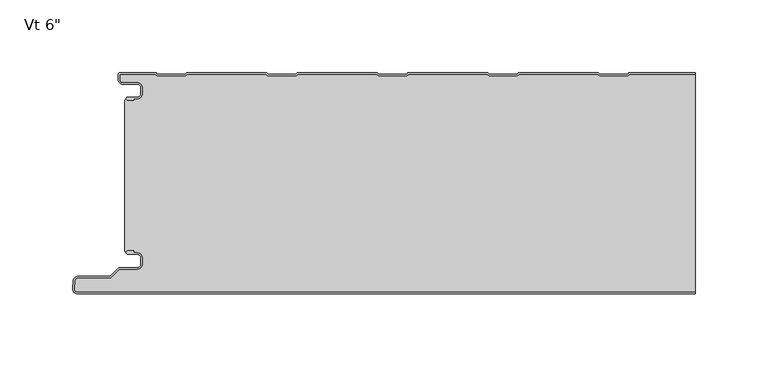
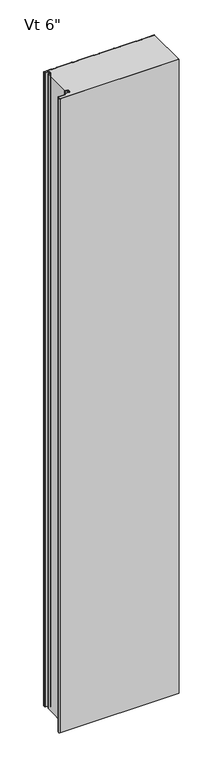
"""IFC4 building model written with IfcOpenShell, lengths in millimetres: plate geometry."""

from ifc_helpers import new_model, si_unit, point, frame, frame_2d, origin, origin_with_axes, place, context, project, spatial, polyline, circle_curve, trimmed, segment, composite_curve, outline, extrude, source, transform, mapped, element, save
from ifc_brep_helpers import plane_surface, cylinder_surface, revolved_surface, advanced_brep


def plate_67e8b0ed(model_context):
    return source(origin(), model_context, "Body", "SolidModel", [
        advanced_brep(
        [(-194.568691, -17.0015405, 2400.0), (-195.5686883, -18.0015437, 2400.0), (-194.568691, -19.0015351, 2400.0), (-190.5684874, -19.0015351, 2400.0), (-190.5684874, -18.0015405, 2400.0), (-187.8762776, -18.0015405, 2400.0), (-184.5762819, -14.7015449, 2400.0), (-184.5762819, -10.3015536, 2400.0), (-187.8762774, -7.0015581, 2400.0), (-198.2962563, -7.0015581, 2400.0), (-200.0662505, -5.2315639, 2400.0), (-200.0662505, -1.0000163, 2400.0), (-175.5659738, -1.0000163, 2400.0), (-174.1803312, -2.2002553, 2400.0), (-154.8051649, -2.2002553, 2400.0), (-153.419532, -1.0000246, 2400.0), (-99.3661166, -1.0000246, 2400.0), (-97.9804836, -2.2002553, 2400.0), (-78.6053173, -2.2002553, 2400.0), (-77.2196844, -1.0000246, 2400.0), (-23.166269, -1.0000246, 2400.0), (-21.780636, -2.2002553, 2400.0), (-2.4054697, -2.2002553, 2400.0), (-1.0198368, -1.0000246, 2400.0), (53.0335786, -1.0000246, 2400.0), (54.4192116, -2.2002553, 2400.0), (73.7943779, -2.2002553, 2400.0), (75.1800108, -1.0000246, 2400.0), (129.2334262, -1.0000246, 2400.0), (130.6190592, -2.2002553, 2400.0), (149.9942255, -2.2002553, 2400.0), (151.3798584, -1.0000246, 2400.0), (196.5999998, -1.0000246, 2400.0), (196.5999998, -2.46e-05, 2400.0), (151.5290096, -2.46e-05, 2400.0), (150.6123927, -0.3418131, 2400.0), (149.6213451, -1.2002553, 2400.0), (130.9919396, -1.2002553, 2400.0), (130.000892, -0.3418131, 2400.0), (129.0842751, -2.46e-05, 2400.0), (75.329162, -2.46e-05, 2400.0), (74.4125451, -0.3418131, 2400.0), (73.4214975, -1.2002553, 2400.0), (54.792092, -1.2002553, 2400.0), (53.8010444, -0.3418131, 2400.0), (52.8844275, -2.46e-05, 2400.0), (-0.8706856, -2.46e-05, 2400.0), (-1.7873025, -0.3418131, 2400.0), (-2.7783501, -1.2002553, 2400.0), (-21.4077556, -1.2002553, 2400.0), (-22.3988032, -0.3418131, 2400.0), (-23.3154201, -2.46e-05, 2400.0), (-77.0705332, -2.46e-05, 2400.0), (-77.9871501, -0.3418131, 2400.0), (-78.9781977, -1.2002553, 2400.0), (-97.6076032, -1.2002553, 2400.0), (-98.5986508, -0.3418131, 2400.0), (-99.5152677, -2.46e-05, 2400.0), (-153.2703808, -2.46e-05, 2400.0), (-154.1869977, -0.3418131, 2400.0), (-155.1780453, -1.2002553, 2400.0), (-173.8074508, -1.2002553, 2400.0), (-174.7984984, -0.3418131, 2400.0), (-175.7152067, -2.46e-05, 2400.0), (-199.6662543, -1.63e-05, 2400.0), (-201.0662505, -1.4000124, 2400.0), (-201.0662505, -5.2315639, 2400.0), (-198.2962563, -8.0015581, 2400.0), (-187.8762774, -8.0015581, 2400.0), (-185.5762819, -10.3015536, 2400.0), (-185.5762819, -14.7015449, 2400.0), (-187.8762776, -17.0015405, 2400.0), (-194.568691, -17.0015405, 0.0), (-187.8762776, -17.0015405, 0.0), (-185.5762819, -14.7015449, 0.0), (-185.5762819, -10.3015536, 0.0), (-187.8762774, -8.0015581, 0.0), (-198.2962563, -8.0015581, 0.0), (-201.0662505, -5.2315639, 0.0), (-201.0662505, -1.4000124, 0.0), (-199.6662543, -1.63e-05, 0.0), (-175.7151153, -1.63e-05, 0.0), (-174.7984984, -0.3418131, 0.0), (-173.8074508, -1.2002553, 0.0), (-155.1780453, -1.2002553, 0.0), (-154.1869977, -0.3418131, 0.0), (-153.2703808, -2.46e-05, 0.0), (-99.5152677, -2.46e-05, 0.0), (-98.5986508, -0.3418131, 0.0), (-97.6076032, -1.2002553, 0.0), (-78.9781977, -1.2002553, 0.0), (-77.9871501, -0.3418131, 0.0), (-77.0705332, -2.46e-05, 0.0), (-23.3154201, -2.46e-05, 0.0), (-22.3988032, -0.3418131, 0.0), (-21.4077556, -1.2002553, 0.0), (-2.7783501, -1.2002553, 0.0), (-1.7873025, -0.3418131, 0.0), (-0.8706856, -2.46e-05, 0.0), (52.8844275, -2.46e-05, 0.0), (53.8010444, -0.3418131, 0.0), (54.792092, -1.2002553, 0.0), (73.4214975, -1.2002553, 0.0), (74.4125451, -0.3418131, 0.0), (75.329162, -2.46e-05, 0.0), (129.0842751, -2.46e-05, 0.0), (130.000892, -0.3418131, 0.0), (130.9919396, -1.2002553, 0.0), (149.6213451, -1.2002553, 0.0), (150.6123927, -0.3418131, 0.0), (151.5290096, -2.46e-05, 0.0), (196.5999998, -2.46e-05, 0.0), (196.5999998, -1.0000246, 0.0), (151.3798584, -1.0000246, 0.0), (149.9942255, -2.2002553, 0.0), (130.6190592, -2.2002553, 0.0), (129.2334262, -1.0000246, 0.0), (75.1800108, -1.0000246, 0.0), (73.7943779, -2.2002553, 0.0), (54.4192116, -2.2002553, 0.0), (53.0335786, -1.0000246, 0.0), (-1.0198368, -1.0000246, 0.0), (-2.4054697, -2.2002553, 0.0), (-21.780636, -2.2002553, 0.0), (-23.166269, -1.0000246, 0.0), (-77.2196844, -1.0000246, 0.0), (-78.6053173, -2.2002553, 0.0), (-97.9804836, -2.2002553, 0.0), (-99.3661166, -1.0000246, 0.0), (-153.419532, -1.0000246, 0.0), (-154.8051649, -2.2002553, 0.0), (-174.1803312, -2.2002553, 0.0), (-175.5659738, -1.0000163, 0.0), (-200.0662505, -1.0000163, 0.0), (-200.0662505, -5.2315639, 0.0), (-198.2962563, -7.0015581, 0.0), (-187.8762774, -7.0015581, 0.0), (-184.5762819, -10.3015536, 0.0), (-184.5762819, -14.7015449, 0.0), (-187.8762776, -18.0015405, 0.0), (-190.5684874, -18.0015405, 0.0), (-190.5684874, -19.0015351, 0.0), (-194.568691, -19.0015351, 0.0), (-195.5686882, -18.0015438, 0.0)],
        [
            (0, 1, circle_curve(frame((-194.568691, -18.0015378, 2400.0), z_axis=(0.0, 0.0, 1.0), x_axis=(1.0, 0.0, 0.0)), 0.9999973)),
            (1, 2, circle_curve(frame((-194.568691, -18.0015379, 2400.0), z_axis=(0.0, 0.0, 1.0), x_axis=(1.0, 0.0, 0.0)), 0.9999972)),
            (2, 3),
            (3, 4),
            (4, 5),
            (5, 6, circle_curve(frame((-187.8762776, -14.7015449, 2400.0), z_axis=(0.0, 0.0, 1.0), x_axis=(1.0, 0.0, 0.0)), 3.2999957)),
            (6, 7),
            (7, 8, circle_curve(frame((-187.8762774, -10.3015536, 2400.0), z_axis=(0.0, 0.0, 1.0), x_axis=(1.0, 0.0, 0.0)), 3.2999955)),
            (8, 9),
            (9, 10, circle_curve(frame((-198.2962563, -5.2315639, 2400.0), z_axis=(0.0, 0.0, -1.0), x_axis=(1.0, 0.0, 0.0)), 1.7699942)),
            (10, 11),
            (11, 12),
            (12, 13),
            (13, 14),
            (14, 15),
            (15, 16),
            (16, 17),
            (17, 18),
            (18, 19),
            (19, 20),
            (20, 21),
            (21, 22),
            (22, 23),
            (23, 24),
            (24, 25),
            (25, 26),
            (26, 27),
            (27, 28),
            (28, 29),
            (29, 30),
            (30, 31),
            (31, 32),
            (32, 33),
            (33, 34),
            (34, 35, circle_curve(frame((151.5290096, -1.4000218, 2400.0), z_axis=(0.0, 0.0, 1.0), x_axis=(1.0, 0.0, 0.0)), 1.3999972)),
            (35, 36),
            (36, 37),
            (37, 38),
            (38, 39, circle_curve(frame((129.0842751, -1.4000218, 2400.0), z_axis=(0.0, 0.0, 1.0), x_axis=(1.0, 0.0, 0.0)), 1.3999972)),
            (39, 40),
            (40, 41, circle_curve(frame((75.329162, -1.4000218, 2400.0), z_axis=(0.0, 0.0, 1.0), x_axis=(1.0, 0.0, 0.0)), 1.3999972)),
            (41, 42),
            (42, 43),
            (43, 44),
            (44, 45, circle_curve(frame((52.8844275, -1.4000218, 2400.0), z_axis=(0.0, 0.0, 1.0), x_axis=(1.0, 0.0, 0.0)), 1.3999972)),
            (45, 46),
            (46, 47, circle_curve(frame((-0.8706856, -1.4000218, 2400.0), z_axis=(0.0, 0.0, 1.0), x_axis=(1.0, 0.0, 0.0)), 1.3999972)),
            (47, 48),
            (48, 49),
            (49, 50),
            (50, 51, circle_curve(frame((-23.3154201, -1.4000218, 2400.0), z_axis=(0.0, 0.0, 1.0), x_axis=(1.0, 0.0, 0.0)), 1.3999972)),
            (51, 52),
            (52, 53, circle_curve(frame((-77.0705332, -1.4000218, 2400.0), z_axis=(0.0, 0.0, 1.0), x_axis=(1.0, 0.0, 0.0)), 1.3999972)),
            (53, 54),
            (54, 55),
            (55, 56),
            (56, 57, circle_curve(frame((-99.5152677, -1.4000218, 2400.0), z_axis=(0.0, 0.0, 1.0), x_axis=(1.0, 0.0, 0.0)), 1.3999972)),
            (57, 58),
            (58, 59, circle_curve(frame((-153.2703808, -1.4000218, 2400.0), z_axis=(0.0, 0.0, 1.0), x_axis=(1.0, 0.0, 0.0)), 1.3999972)),
            (59, 60),
            (60, 61),
            (61, 62),
            (62, 63, circle_curve(frame((-175.7151153, -1.4000218, 2400.0), z_axis=(0.0, 0.0, 1.0), x_axis=(1.0, 0.0, 0.0)), 1.3999972)),
            (63, 64),
            (64, 65, circle_curve(frame((-199.6662543, -1.4000124, 2400.0), z_axis=(0.0, 0.0, 1.0), x_axis=(1.0, 0.0, 0.0)), 1.3999962)),
            (65, 66),
            (66, 67, circle_curve(frame((-198.2962563, -5.2315639, 2400.0), z_axis=(0.0, 0.0, 1.0), x_axis=(1.0, 0.0, 0.0)), 2.7699942)),
            (67, 68),
            (68, 69, circle_curve(frame((-187.8762774, -10.3015536, 2400.0), z_axis=(0.0, 0.0, -1.0), x_axis=(1.0, 0.0, 0.0)), 2.2999955)),
            (69, 70),
            (70, 71, circle_curve(frame((-187.8762776, -14.7015449, 2400.0), z_axis=(0.0, 0.0, -1.0), x_axis=(1.0, 0.0, 0.0)), 2.2999957)),
            (71, 0),
            (72, 73),
            (73, 74, circle_curve(frame((-187.8762776, -14.7015449, 0.0), z_axis=(0.0, 0.0, 1.0), x_axis=(1.0, 0.0, 0.0)), 2.2999957)),
            (74, 75),
            (75, 76, circle_curve(frame((-187.8762774, -10.3015536, 0.0), z_axis=(0.0, 0.0, 1.0), x_axis=(1.0, 0.0, 0.0)), 2.2999955)),
            (76, 77),
            (77, 78, circle_curve(frame((-198.2962563, -5.2315639, 0.0), z_axis=(0.0, 0.0, -1.0), x_axis=(1.0, 0.0, 0.0)), 2.7699942)),
            (78, 79),
            (79, 80, circle_curve(frame((-199.6662543, -1.4000124, 0.0), z_axis=(0.0, 0.0, -1.0), x_axis=(1.0, 0.0, 0.0)), 1.3999962)),
            (80, 81),
            (81, 82, circle_curve(frame((-175.7151153, -1.4000218, 0.0), z_axis=(0.0, 0.0, -1.0), x_axis=(1.0, 0.0, 0.0)), 1.3999972)),
            (82, 83),
            (83, 84),
            (84, 85),
            (85, 86, circle_curve(frame((-153.2703808, -1.4000218, 0.0), z_axis=(0.0, 0.0, -1.0), x_axis=(1.0, 0.0, 0.0)), 1.3999972)),
            (86, 87),
            (87, 88, circle_curve(frame((-99.5152677, -1.4000218, 0.0), z_axis=(0.0, 0.0, -1.0), x_axis=(1.0, 0.0, 0.0)), 1.3999972)),
            (88, 89),
            (89, 90),
            (90, 91),
            (91, 92, circle_curve(frame((-77.0705332, -1.4000218, 0.0), z_axis=(0.0, 0.0, -1.0), x_axis=(1.0, 0.0, 0.0)), 1.3999972)),
            (92, 93),
            (93, 94, circle_curve(frame((-23.3154201, -1.4000218, 0.0), z_axis=(0.0, 0.0, -1.0), x_axis=(1.0, 0.0, 0.0)), 1.3999972)),
            (94, 95),
            (95, 96),
            (96, 97),
            (97, 98, circle_curve(frame((-0.8706856, -1.4000218, 0.0), z_axis=(0.0, 0.0, -1.0), x_axis=(1.0, 0.0, 0.0)), 1.3999972)),
            (98, 99),
            (99, 100, circle_curve(frame((52.8844275, -1.4000218, 0.0), z_axis=(0.0, 0.0, -1.0), x_axis=(1.0, 0.0, 0.0)), 1.3999972)),
            (100, 101),
            (101, 102),
            (102, 103),
            (103, 104, circle_curve(frame((75.329162, -1.4000218, 0.0), z_axis=(0.0, 0.0, -1.0), x_axis=(1.0, 0.0, 0.0)), 1.3999972)),
            (104, 105),
            (105, 106, circle_curve(frame((129.0842751, -1.4000218, 0.0), z_axis=(0.0, 0.0, -1.0), x_axis=(1.0, 0.0, 0.0)), 1.3999972)),
            (106, 107),
            (107, 108),
            (108, 109),
            (109, 110, circle_curve(frame((151.5290096, -1.4000218, 0.0), z_axis=(0.0, 0.0, -1.0), x_axis=(1.0, 0.0, 0.0)), 1.3999972)),
            (110, 111),
            (111, 112),
            (112, 113),
            (113, 114),
            (114, 115),
            (115, 116),
            (116, 117),
            (117, 118),
            (118, 119),
            (119, 120),
            (120, 121),
            (121, 122),
            (122, 123),
            (123, 124),
            (124, 125),
            (125, 126),
            (126, 127),
            (127, 128),
            (128, 129),
            (129, 130),
            (130, 131),
            (131, 132),
            (132, 133),
            (133, 134),
            (134, 135, circle_curve(frame((-198.2962563, -5.2315639, 0.0), z_axis=(0.0, 0.0, 1.0), x_axis=(1.0, 0.0, 0.0)), 1.7699942)),
            (135, 136),
            (136, 137, circle_curve(frame((-187.8762774, -10.3015536, 0.0), z_axis=(0.0, 0.0, -1.0), x_axis=(1.0, 0.0, 0.0)), 3.2999955)),
            (137, 138),
            (138, 139, circle_curve(frame((-187.8762776, -14.7015449, 0.0), z_axis=(0.0, 0.0, -1.0), x_axis=(1.0, 0.0, 0.0)), 3.2999957)),
            (139, 140),
            (140, 141),
            (141, 142),
            (142, 143, circle_curve(frame((-194.568691, -18.0015379, 0.0), z_axis=(0.0, 0.0, -1.0), x_axis=(1.0, 0.0, 0.0)), 0.9999972)),
            (143, 72, circle_curve(frame((-194.568691, -18.0015378, 0.0), z_axis=(0.0, 0.0, -1.0), x_axis=(1.0, 0.0, 0.0)), 0.9999973)),
            (32, 112),
            (111, 33),
            (71, 73),
            (72, 0),
            (70, 74),
            (69, 75),
            (68, 76),
            (67, 77),
            (66, 78),
            (65, 79),
            (64, 80),
            (63, 81),
            (62, 82),
            (61, 83),
            (60, 84),
            (59, 85),
            (58, 86),
            (57, 87),
            (56, 88),
            (55, 89),
            (54, 90),
            (53, 91),
            (52, 92),
            (51, 93),
            (50, 94),
            (49, 95),
            (48, 96),
            (47, 97),
            (46, 98),
            (45, 99),
            (44, 100),
            (43, 101),
            (42, 102),
            (41, 103),
            (40, 104),
            (39, 105),
            (38, 106),
            (37, 107),
            (36, 108),
            (35, 109),
            (34, 110),
            (31, 113),
            (30, 114),
            (29, 115),
            (28, 116),
            (27, 117),
            (26, 118),
            (25, 119),
            (24, 120),
            (23, 121),
            (22, 122),
            (21, 123),
            (20, 124),
            (19, 125),
            (18, 126),
            (17, 127),
            (16, 128),
            (15, 129),
            (14, 130),
            (13, 131),
            (12, 132),
            (11, 133),
            (10, 134),
            (9, 135),
            (8, 136),
            (7, 137),
            (6, 138),
            (5, 139),
            (4, 140),
            (3, 141),
            (2, 142),
            (1, 143),
        ],
        [
            plane_surface(frame((336.8000002, -2.46e-05, 2400.0), z_axis=(0.0, 0.0, 1.0), x_axis=(0.0, 1.0, 0.0))),
            plane_surface(frame((336.8000002, -2.46e-05, 0.0), z_axis=(0.0, 0.0, -1.0), x_axis=(0.0, 1.0, 0.0))),
            plane_surface(frame((196.5999998, -162.4000246, 2400.0), z_axis=(1.0, 0.0, 0.0), x_axis=(0.0, 0.0, -1.0))),
            plane_surface(frame((-194.568691, -17.0015405, 2400.0), z_axis=(0.0, 1.0, 0.0), x_axis=(0.0, 0.0, -1.0))),
            revolved_surface(polyline([(-185.5762819, -14.7015449, 0.0), (-185.5762819, -14.7015449, 2400.0)]), (-187.8762776, -14.7015449, 2400.0), (0.0, 0.0, -1.0)),
            plane_surface(frame((-185.5762819, -14.7015449, 2400.0), z_axis=(-1.0, 0.0, 0.0), x_axis=(0.0, 0.0, -1.0))),
            revolved_surface(polyline([(-185.5762819, -10.3015536, 0.0), (-185.5762819, -10.3015536, 2400.0)]), (-187.8762774, -10.3015536, 2400.0), (0.0, 0.0, -1.0)),
            plane_surface(frame((-187.8762774, -8.0015581, 2400.0), z_axis=(0.0, -1.0, 0.0), x_axis=(0.0, 0.0, -1.0))),
            cylinder_surface(frame((-198.2962563, -5.2315639, 2400.0), z_axis=(0.0, 0.0, 1.0), x_axis=(1.0, 0.0, 0.0)), 2.7699942),
            plane_surface(frame((-201.0662505, -5.2315639, 2400.0), z_axis=(-1.0, 0.0, 0.0), x_axis=(0.0, 0.0, -1.0))),
            cylinder_surface(frame((-199.6662543, -1.4000124, 2400.0), z_axis=(0.0, 0.0, 1.0), x_axis=(1.0, 0.0, 0.0)), 1.3999962),
            plane_surface(frame((-199.6662543, -1.63e-05, 2400.0), z_axis=(0.0, 1.0, 0.0), x_axis=(0.0, 0.0, -1.0))),
            cylinder_surface(frame((-175.7151153, -1.4000218, 2400.0), z_axis=(0.0, 0.0, 1.0), x_axis=(1.0, 0.0, 0.0)), 1.3999972),
            plane_surface(frame((-174.7984984, -0.3418131, 2400.0), z_axis=(0.6547276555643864, 0.7558648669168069, 0.0), x_axis=(0.0, 0.0, -1.0))),
            plane_surface(frame((-164.4927481, -1.2002553, 2400.0), z_axis=(0.0, 1.0, 0.0), x_axis=(0.0, 0.0, -1.0))),
            plane_surface(frame((-155.1780453, -1.2002553, 2400.0), z_axis=(-0.6547276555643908, 0.7558648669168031, 0.0), x_axis=(0.0, 0.0, -1.0))),
            cylinder_surface(frame((-153.2703808, -1.4000218, 2400.0), z_axis=(0.0, 0.0, 1.0), x_axis=(1.0, 0.0, 0.0)), 1.3999972),
            plane_surface(frame((-153.2703808, -2.46e-05, 2400.0), z_axis=(0.0, 1.0, 0.0), x_axis=(0.0, 0.0, -1.0))),
            cylinder_surface(frame((-99.5152677, -1.4000218, 2400.0), z_axis=(0.0, 0.0, 1.0), x_axis=(1.0, 0.0, 0.0)), 1.3999972),
            plane_surface(frame((-98.5986508, -0.3418131, 2400.0), z_axis=(0.6547276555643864, 0.7558648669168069, 0.0), x_axis=(0.0, 0.0, -1.0))),
            plane_surface(frame((-88.2929005, -1.2002553, 2400.0), z_axis=(0.0, 1.0, 0.0), x_axis=(0.0, 0.0, -1.0))),
            plane_surface(frame((-78.9781977, -1.2002553, 2400.0), z_axis=(-0.6547276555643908, 0.7558648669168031, 0.0), x_axis=(0.0, 0.0, -1.0))),
            cylinder_surface(frame((-77.0705332, -1.4000218, 2400.0), z_axis=(0.0, 0.0, 1.0), x_axis=(1.0, 0.0, 0.0)), 1.3999972),
            plane_surface(frame((-77.0705332, -2.46e-05, 2400.0), z_axis=(0.0, 1.0, 0.0), x_axis=(0.0, 0.0, -1.0))),
            cylinder_surface(frame((-23.3154201, -1.4000218, 2400.0), z_axis=(0.0, 0.0, 1.0), x_axis=(1.0, 0.0, 0.0)), 1.3999972),
            plane_surface(frame((-22.3988032, -0.3418131, 2400.0), z_axis=(0.6547276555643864, 0.7558648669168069, 0.0), x_axis=(0.0, 0.0, -1.0))),
            plane_surface(frame((-12.0930529, -1.2002553, 2400.0), z_axis=(0.0, 1.0, 0.0), x_axis=(0.0, 0.0, -1.0))),
            plane_surface(frame((-2.7783501, -1.2002553, 2400.0), z_axis=(-0.6547276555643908, 0.7558648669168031, 0.0), x_axis=(0.0, 0.0, -1.0))),
            cylinder_surface(frame((-0.8706856, -1.4000218, 2400.0), z_axis=(0.0, 0.0, 1.0), x_axis=(1.0, 0.0, 0.0)), 1.3999972),
            plane_surface(frame((-0.8706856, -2.46e-05, 2400.0), z_axis=(0.0, 1.0, 0.0), x_axis=(0.0, 0.0, -1.0))),
            cylinder_surface(frame((52.8844275, -1.4000218, 2400.0), z_axis=(0.0, 0.0, 1.0), x_axis=(1.0, 0.0, 0.0)), 1.3999972),
            plane_surface(frame((53.8010444, -0.3418131, 2400.0), z_axis=(0.6547276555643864, 0.7558648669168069, 0.0), x_axis=(0.0, 0.0, -1.0))),
            plane_surface(frame((64.1067947, -1.2002553, 2400.0), z_axis=(0.0, 1.0, 0.0), x_axis=(0.0, 0.0, -1.0))),
            plane_surface(frame((73.4214975, -1.2002553, 2400.0), z_axis=(-0.6547276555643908, 0.7558648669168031, 0.0), x_axis=(0.0, 0.0, -1.0))),
            cylinder_surface(frame((75.329162, -1.4000218, 2400.0), z_axis=(0.0, 0.0, 1.0), x_axis=(1.0, 0.0, 0.0)), 1.3999972),
            plane_surface(frame((75.329162, -2.46e-05, 2400.0), z_axis=(0.0, 1.0, 0.0), x_axis=(0.0, 0.0, -1.0))),
            cylinder_surface(frame((129.0842751, -1.4000218, 2400.0), z_axis=(0.0, 0.0, 1.0), x_axis=(1.0, 0.0, 0.0)), 1.3999972),
            plane_surface(frame((130.000892, -0.3418131, 2400.0), z_axis=(0.6547276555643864, 0.7558648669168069, 0.0), x_axis=(0.0, 0.0, -1.0))),
            plane_surface(frame((140.3066423, -1.2002553, 2400.0), z_axis=(0.0, 1.0, 0.0), x_axis=(0.0, 0.0, -1.0))),
            plane_surface(frame((149.6213451, -1.2002553, 2400.0), z_axis=(-0.6547276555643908, 0.7558648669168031, 0.0), x_axis=(0.0, 0.0, -1.0))),
            cylinder_surface(frame((151.5290096, -1.4000218, 2400.0), z_axis=(0.0, 0.0, 1.0), x_axis=(1.0, 0.0, 0.0)), 1.3999972),
            plane_surface(frame((151.5290096, -2.46e-05, 2400.0), z_axis=(0.0, 1.0, 0.0), x_axis=(0.0, 0.0, -1.0))),
            plane_surface(frame((205.4332738, -1.0000246, 2400.0), z_axis=(0.0, -1.0, 0.0), x_axis=(0.0, 0.0, -1.0))),
            plane_surface(frame((151.3798584, -1.0000246, 2400.0), z_axis=(0.6547276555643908, -0.7558648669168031, 0.0), x_axis=(0.0, 0.0, -1.0))),
            plane_surface(frame((149.9942255, -2.2002553, 2400.0), z_axis=(0.0, -1.0, 0.0), x_axis=(0.0, 0.0, -1.0))),
            plane_surface(frame((130.6190592, -2.2002553, 2400.0), z_axis=(-0.6547276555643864, -0.7558648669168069, 0.0), x_axis=(0.0, 0.0, -1.0))),
            plane_surface(frame((129.2334262, -1.0000246, 2400.0), z_axis=(0.0, -1.0, 0.0), x_axis=(0.0, 0.0, -1.0))),
            plane_surface(frame((75.1800108, -1.0000246, 2400.0), z_axis=(0.6547276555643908, -0.7558648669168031, 0.0), x_axis=(0.0, 0.0, -1.0))),
            plane_surface(frame((73.7943779, -2.2002553, 2400.0), z_axis=(0.0, -1.0, 0.0), x_axis=(0.0, 0.0, -1.0))),
            plane_surface(frame((54.4192116, -2.2002553, 2400.0), z_axis=(-0.6547276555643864, -0.7558648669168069, 0.0), x_axis=(0.0, 0.0, -1.0))),
            plane_surface(frame((53.0335786, -1.0000246, 2400.0), z_axis=(0.0, -1.0, 0.0), x_axis=(0.0, 0.0, -1.0))),
            plane_surface(frame((-1.0198368, -1.0000246, 2400.0), z_axis=(0.6547276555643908, -0.7558648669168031, 0.0), x_axis=(0.0, 0.0, -1.0))),
            plane_surface(frame((-2.4054697, -2.2002553, 2400.0), z_axis=(0.0, -1.0, 0.0), x_axis=(0.0, 0.0, -1.0))),
            plane_surface(frame((-21.780636, -2.2002553, 2400.0), z_axis=(-0.6547276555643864, -0.7558648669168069, 0.0), x_axis=(0.0, 0.0, -1.0))),
            plane_surface(frame((-23.166269, -1.0000246, 2400.0), z_axis=(0.0, -1.0, 0.0), x_axis=(0.0, 0.0, -1.0))),
            plane_surface(frame((-77.2196844, -1.0000246, 2400.0), z_axis=(0.6547276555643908, -0.7558648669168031, 0.0), x_axis=(0.0, 0.0, -1.0))),
            plane_surface(frame((-78.6053173, -2.2002553, 2400.0), z_axis=(0.0, -1.0, 0.0), x_axis=(0.0, 0.0, -1.0))),
            plane_surface(frame((-97.9804836, -2.2002553, 2400.0), z_axis=(-0.6547276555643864, -0.7558648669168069, 0.0), x_axis=(0.0, 0.0, -1.0))),
            plane_surface(frame((-99.3661166, -1.0000246, 2400.0), z_axis=(0.0, -1.0, 0.0), x_axis=(0.0, 0.0, -1.0))),
            plane_surface(frame((-153.419532, -1.0000246, 2400.0), z_axis=(0.6547276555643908, -0.7558648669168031, 0.0), x_axis=(0.0, 0.0, -1.0))),
            plane_surface(frame((-154.8051649, -2.2002553, 2400.0), z_axis=(0.0, -1.0, 0.0), x_axis=(0.0, 0.0, -1.0))),
            plane_surface(frame((-174.1803312, -2.2002553, 2400.0), z_axis=(-0.6547276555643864, -0.7558648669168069, 0.0), x_axis=(0.0, 0.0, -1.0))),
            plane_surface(frame((-175.5659738, -1.0000163, 2400.0), z_axis=(0.0, -1.0, 0.0), x_axis=(0.0, 0.0, -1.0))),
            plane_surface(frame((-200.0662505, -1.0000163, 2400.0), z_axis=(1.0, 0.0, 0.0), x_axis=(0.0, 0.0, -1.0))),
            revolved_surface(polyline([(-196.5262621, -5.2315639, 0.0), (-196.5262621, -5.2315639, 2400.0)]), (-198.2962563, -5.2315639, 2400.0), (0.0, 0.0, -1.0)),
            plane_surface(frame((-198.2962563, -7.0015581, 2400.0), z_axis=(0.0, 1.0, 0.0), x_axis=(0.0, 0.0, -1.0))),
            cylinder_surface(frame((-187.8762774, -10.3015536, 2400.0), z_axis=(0.0, 0.0, 1.0), x_axis=(1.0, 0.0, 0.0)), 3.2999955),
            plane_surface(frame((-184.5762819, -10.3015536, 2400.0), z_axis=(1.0, 0.0, 0.0), x_axis=(0.0, 0.0, -1.0))),
            cylinder_surface(frame((-187.8762776, -14.7015449, 2400.0), z_axis=(0.0, 0.0, 1.0), x_axis=(1.0, 0.0, 0.0)), 3.2999957),
            plane_surface(frame((-187.8762776, -18.0015405, 2400.0), z_axis=(0.0, -1.0, 0.0), x_axis=(0.0, 0.0, -1.0))),
            plane_surface(frame((-190.5684874, -18.0015405, 2400.0), z_axis=(1.0, 0.0, 0.0), x_axis=(0.0, 0.0, -1.0))),
            plane_surface(frame((-190.5684874, -19.0015351, 2400.0), z_axis=(0.0, -1.0, 0.0), x_axis=(0.0, 0.0, -1.0))),
            cylinder_surface(frame((-194.568691, -18.0015379, 2400.0), z_axis=(0.0, 0.0, 1.0), x_axis=(1.0, 0.0, 0.0)), 0.9999972),
            cylinder_surface(frame((-194.568691, -18.0015378, 2400.0), z_axis=(0.0, 0.0, 1.0), x_axis=(1.0, 0.0, 0.0)), 0.9999973),
        ],
        [
            (0, [[1, 2, 3, 4, 5, 6, 7, 8, 9, 10, 11, 12, 13, 14, 15, 16, 17, 18, 19, 20, 21, 22, 23, 24, 25, 26, 27, 28, 29, 30, 31, 32, 33, 34, 35, 36, 37, 38, 39, 40, 41, 42, 43, 44, 45, 46, 47, 48, 49, 50, 51, 52, 53, 54, 55, 56, 57, 58, 59, 60, 61, 62, 63, 64, 65, 66, 67, 68, 69, 70, 71, 72]]),
            (1, [[73, 74, 75, 76, 77, 78, 79, 80, 81, 82, 83, 84, 85, 86, 87, 88, 89, 90, 91, 92, 93, 94, 95, 96, 97, 98, 99, 100, 101, 102, 103, 104, 105, 106, 107, 108, 109, 110, 111, 112, 113, 114, 115, 116, 117, 118, 119, 120, 121, 122, 123, 124, 125, 126, 127, 128, 129, 130, 131, 132, 133, 134, 135, 136, 137, 138, 139, 140, 141, 142, 143, 144]]),
            (2, [[145, -112, 146, -33]]),
            (3, [[147, -73, 148, -72]]),
            (4, [[149, -74, -147, -71]]),
            (5, [[150, -75, -149, -70]]),
            (6, [[151, -76, -150, -69]]),
            (7, [[152, -77, -151, -68]]),
            (8, [[153, -78, -152, -67]]),
            (9, [[154, -79, -153, -66]]),
            (10, [[155, -80, -154, -65]]),
            (11, [[156, -81, -155, -64]]),
            (12, [[157, -82, -156, -63]]),
            (13, [[158, -83, -157, -62]]),
            (14, [[159, -84, -158, -61]]),
            (15, [[160, -85, -159, -60]]),
            (16, [[161, -86, -160, -59]]),
            (17, [[162, -87, -161, -58]]),
            (18, [[163, -88, -162, -57]]),
            (19, [[164, -89, -163, -56]]),
            (20, [[165, -90, -164, -55]]),
            (21, [[166, -91, -165, -54]]),
            (22, [[167, -92, -166, -53]]),
            (23, [[168, -93, -167, -52]]),
            (24, [[169, -94, -168, -51]]),
            (25, [[170, -95, -169, -50]]),
            (26, [[171, -96, -170, -49]]),
            (27, [[172, -97, -171, -48]]),
            (28, [[173, -98, -172, -47]]),
            (29, [[174, -99, -173, -46]]),
            (30, [[175, -100, -174, -45]]),
            (31, [[176, -101, -175, -44]]),
            (32, [[177, -102, -176, -43]]),
            (33, [[178, -103, -177, -42]]),
            (34, [[179, -104, -178, -41]]),
            (35, [[180, -105, -179, -40]]),
            (36, [[181, -106, -180, -39]]),
            (37, [[182, -107, -181, -38]]),
            (38, [[183, -108, -182, -37]]),
            (39, [[184, -109, -183, -36]]),
            (40, [[185, -110, -184, -35]]),
            (41, [[-34, -146, -111, -185]]),
            (42, [[-113, -145, -32, 186]]),
            (43, [[187, -114, -186, -31]]),
            (44, [[188, -115, -187, -30]]),
            (45, [[189, -116, -188, -29]]),
            (46, [[190, -117, -189, -28]]),
            (47, [[191, -118, -190, -27]]),
            (48, [[192, -119, -191, -26]]),
            (49, [[193, -120, -192, -25]]),
            (50, [[194, -121, -193, -24]]),
            (51, [[195, -122, -194, -23]]),
            (52, [[196, -123, -195, -22]]),
            (53, [[197, -124, -196, -21]]),
            (54, [[198, -125, -197, -20]]),
            (55, [[199, -126, -198, -19]]),
            (56, [[200, -127, -199, -18]]),
            (57, [[201, -128, -200, -17]]),
            (58, [[202, -129, -201, -16]]),
            (59, [[203, -130, -202, -15]]),
            (60, [[204, -131, -203, -14]]),
            (61, [[205, -132, -204, -13]]),
            (62, [[206, -133, -205, -12]]),
            (63, [[207, -134, -206, -11]]),
            (64, [[208, -135, -207, -10]]),
            (65, [[209, -136, -208, -9]]),
            (66, [[210, -137, -209, -8]]),
            (67, [[211, -138, -210, -7]]),
            (68, [[212, -139, -211, -6]]),
            (69, [[213, -140, -212, -5]]),
            (70, [[214, -141, -213, -4]]),
            (71, [[215, -142, -214, -3]]),
            (72, [[216, -143, -215, -2]]),
            (73, [[-148, -144, -216, -1]]),
        ],
    ),
        extrude(outline(composite_curve([segment(polyline([(-232.6087619, -148.5191544), (-232.1690674, -143.4951077)]), True, "CONTINUOUS"), segment(trimmed(circle_curve(frame_2d((-228.5198391, -144.1059089)), 3.6999926), [point((-232.1690674, -143.4951077))], [point((-228.5198391, -140.4059163))], False, "CARTESIAN"), True, "CONTINUOUS"), segment(polyline([(-228.5198391, -140.4059163), (-207.3773995, -140.4059163)]), True, "CONTINUOUS"), segment(trimmed(circle_curve(frame_2d((-207.3773995, -139.1059189)), 1.2999974), [point((-207.3773995, -140.4059163))], [point((-206.4581626, -140.0251558))], True, "CARTESIAN"), True, "CONTINUOUS"), segment(polyline([(-206.4581626, -140.0251558), (-201.6297451, -135.1967384)]), True, "CONTINUOUS"), segment(trimmed(circle_curve(frame_2d((-199.7205606, -137.1059229)), 2.6999946), [point((-201.6297451, -135.1967384))], [point((-199.7205606, -134.4059283))], False, "CARTESIAN"), True, "CONTINUOUS"), segment(polyline([(-199.7205606, -134.4059283), (-187.9096715, -134.4059283)]), True, "CONTINUOUS"), segment(trimmed(circle_curve(frame_2d((-187.9096715, -132.055933)), 2.3499953), [point((-187.9096715, -134.4059283))], [point((-185.5596762, -132.055933))], True, "CARTESIAN"), True, "CONTINUOUS"), segment(polyline([(-185.5596762, -132.055933), (-185.5596762, -127.6559418)]), True, "CONTINUOUS"), segment(trimmed(circle_curve(frame_2d((-187.9096715, -127.6559418)), 2.3499953), [point((-185.5596762, -127.6559418))], [point((-187.9096715, -125.3059465))], True, "CARTESIAN"), True, "CONTINUOUS"), segment(polyline([(-187.9096715, -125.3059465), (-194.4289777, -125.3059465)]), True, "CONTINUOUS"), segment(trimmed(circle_curve(frame_2d((-194.3686906, -124.1074642)), 1.1999976), [point((-194.4289777, -125.3059465))], [point((-195.5683, -124.0769423))], False, "CARTESIAN"), True, "CONTINUOUS"), segment(trimmed(circle_curve(frame_2d((-194.3686906, -124.1074642)), 1.1999976), [point((-195.5683, -124.0769423))], [point((-194.367176, -122.9074676))], False, "CARTESIAN"), True, "CONTINUOUS"), segment(polyline([(-194.367176, -122.9074676), (-190.6087826, -122.9074676), (-190.6087826, -124.3059465), (-187.9096715, -124.3059465)]), True, "CONTINUOUS"), segment(trimmed(circle_curve(frame_2d((-187.9096715, -127.6559418)), 3.3499953), [point((-187.9096715, -124.3059465))], [point((-184.5596762, -127.6559418))], False, "CARTESIAN"), True, "CONTINUOUS"), segment(polyline([(-184.5596762, -127.6559418), (-184.5596762, -132.055933)]), True, "CONTINUOUS"), segment(trimmed(circle_curve(frame_2d((-187.9096715, -132.055933)), 3.3499953), [point((-184.5596762, -132.055933))], [point((-187.9096715, -135.4059283))], False, "CARTESIAN"), True, "CONTINUOUS"), segment(polyline([(-187.9096715, -135.4059283), (-199.7205606, -135.4059283)]), True, "CONTINUOUS"), segment(trimmed(circle_curve(frame_2d((-199.7205606, -137.1059229)), 1.6999946), [point((-199.7205606, -135.4059283))], [point((-200.9226383, -135.9038451))], True, "CARTESIAN"), True, "CONTINUOUS"), segment(polyline([(-200.9226383, -135.9038451), (-206.4247094, -141.4059163), (-228.5198391, -141.4059163)]), True, "CONTINUOUS"), segment(trimmed(circle_curve(frame_2d((-228.5198391, -144.1059089)), 2.6999926), [point((-228.5198391, -141.4059163))], [point((-231.1765707, -143.6245182))], True, "CARTESIAN"), True, "CONTINUOUS"), segment(polyline([(-231.1765707, -143.6245182), (-231.6125697, -148.6063391)]), True, "CONTINUOUS"), segment(trimmed(circle_curve(frame_2d((-229.0521175, -148.8304248)), 2.5702393), [point((-231.6125697, -148.6063391))], [point((-229.1094458, -151.4000246))], True, "CARTESIAN"), True, "CONTINUOUS"), segment(polyline([(-229.1094458, -151.4000246), (196.5999998, -151.4000246), (196.5999998, -152.4000246), (-229.1196851, -152.4000246)]), True, "CONTINUOUS"), segment(trimmed(circle_curve(frame_2d((-229.0521175, -148.8304248)), 3.5702393), [point((-229.1196851, -152.4000246))], [point((-232.6087619, -148.5191544))], False, "CARTESIAN"), True, "CONTINUOUS")], self_intersect=False)), origin_with_axes(), (0.0, 0.0, 1.0), 2400.0),
        advanced_brep(
        [(-195.5683, -124.0708996, 2400.0), (-194.367176, -122.9014249, 2400.0), (-190.6087826, -122.9014249, 2400.0), (-190.6087826, -124.2999038, 2400.0), (-187.9096715, -124.2999038, 2400.0), (-184.5596762, -127.6498991, 2400.0), (-184.5596762, -132.0498903, 2400.0), (-187.9096715, -135.3998856, 2400.0), (-199.7205606, -135.3998856, 2400.0), (-200.9226383, -135.8978025, 2400.0), (-206.4247094, -141.3998736, 2400.0), (-228.5198391, -141.3998736, 2400.0), (-231.1765707, -143.6184756, 2400.0), (-231.6125697, -148.6002964, 2400.0), (-229.0521175, -151.3946214, 2400.0), (196.5999998, -151.4000246, 2400.0), (196.5999998, -1.0000246, 2400.0), (151.3798585, -1.0000246, 2400.0), (149.9942255, -2.2002553, 2400.0), (130.6190592, -2.2002553, 2400.0), (129.2334263, -1.0000246, 2400.0), (75.1800109, -1.0000246, 2400.0), (73.7943779, -2.2002553, 2400.0), (54.4192116, -2.2002553, 2400.0), (53.0335787, -1.0000246, 2400.0), (-1.0198367, -1.0000246, 2400.0), (-2.4054697, -2.2002553, 2400.0), (-21.780636, -2.2002553, 2400.0), (-23.1662689, -1.0000246, 2400.0), (-77.2196843, -1.0000246, 2400.0), (-78.6053173, -2.2002553, 2400.0), (-97.9804836, -2.2002553, 2400.0), (-99.3661165, -1.0000246, 2400.0), (-153.4195319, -1.0000246, 2400.0), (-154.8051649, -2.2002553, 2400.0), (-174.1803312, -2.2002553, 2400.0), (-175.5659738, -1.0000163, 2400.0), (-200.0662504, -1.0000163, 2400.0), (-200.0662504, -5.2315636, 2400.0), (-198.2962562, -7.0015578, 2400.0), (-187.8762777, -7.0015578, 2400.0), (-184.5762818, -10.3015536, 2400.0), (-184.5762818, -14.7015449, 2400.0), (-187.8762775, -18.0015405, 2400.0), (-190.5684873, -18.0015405, 2400.0), (-190.5684873, -19.0015351, 2400.0), (-194.568691, -19.0015351, 2400.0), (-195.5686882, -18.0015438, 2400.0), (-196.5999998, -19.0328554, 2400.0), (-196.5999998, -123.0391997, 2400.0), (-195.5683, -124.0708996, 0.0), (-196.5999998, -123.0391997, 0.0), (-196.5999998, -19.0328554, 0.0), (-195.5686882, -18.0015438, 0.0), (-194.568691, -19.0015351, 0.0), (-190.5684873, -19.0015351, 0.0), (-190.5684873, -18.0015405, 0.0), (-187.8762775, -18.0015405, 0.0), (-184.5762818, -14.7015449, 0.0), (-184.5762818, -10.3015536, 0.0), (-187.8762777, -7.0015578, 0.0), (-198.2962562, -7.0015578, 0.0), (-200.0662504, -5.2315636, 0.0), (-200.0662504, -1.0000163, 0.0), (-175.5659738, -1.0000163, 0.0), (-174.1803312, -2.2002553, 0.0), (-154.8051649, -2.2002553, 0.0), (-153.4195319, -1.0000246, 0.0), (-99.3661165, -1.0000246, 0.0), (-97.9804836, -2.2002553, 0.0), (-78.6053173, -2.2002553, 0.0), (-77.2196843, -1.0000246, 0.0), (-23.1662689, -1.0000246, 0.0), (-21.780636, -2.2002553, 0.0), (-2.4054697, -2.2002553, 0.0), (-1.0198367, -1.0000246, 0.0), (53.0335787, -1.0000246, 0.0), (54.4192116, -2.2002553, 0.0), (73.7943779, -2.2002553, 0.0), (75.1800109, -1.0000246, 0.0), (129.2334263, -1.0000246, 0.0), (130.6190592, -2.2002553, 0.0), (149.9942255, -2.2002553, 0.0), (151.3798585, -1.0000246, 0.0), (196.5999998, -1.0000246, 0.0), (196.5999998, -151.4000246, 0.0), (-229.0521175, -151.4000246, 0.0), (-231.6125697, -148.6002964, 0.0), (-231.1765707, -143.6184756, 0.0), (-228.5198391, -141.3998736, 0.0), (-206.4247094, -141.3998736, 0.0), (-200.9226383, -135.8978025, 0.0), (-199.7205606, -135.3998856, 0.0), (-187.9096715, -135.3998856, 0.0), (-184.5596762, -132.0498903, 0.0), (-184.5596762, -127.6498991, 0.0), (-187.9096715, -124.2999038, 0.0), (-190.6087826, -124.2999038, 0.0), (-190.6087826, -122.9014249, 0.0), (-194.367176, -122.9014249, 0.0)],
        [
            (0, 1, circle_curve(frame((-194.3686906, -124.1014215, 2400.0), z_axis=(0.0, 0.0, -1.0), x_axis=(-1.0, 0.0, 0.0)), 1.1999976)),
            (1, 2),
            (2, 3),
            (3, 4),
            (4, 5, circle_curve(frame((-187.9096715, -127.6498991, 2400.0), z_axis=(0.0, 0.0, -1.0), x_axis=(-1.0, 0.0, 0.0)), 3.3499953)),
            (5, 6),
            (6, 7, circle_curve(frame((-187.9096715, -132.0498903, 2400.0), z_axis=(0.0, 0.0, -1.0), x_axis=(-1.0, 0.0, 0.0)), 3.3499953)),
            (7, 8),
            (8, 9, circle_curve(frame((-199.7205606, -137.0998802, 2400.0), z_axis=(0.0, 0.0, 1.0), x_axis=(-1.0, 0.0, 0.0)), 1.6999946)),
            (9, 10),
            (10, 11),
            (11, 12, circle_curve(frame((-228.5198391, -144.0998662, 2400.0), z_axis=(0.0, 0.0, 1.0), x_axis=(-1.0, 0.0, 0.0)), 2.6999926)),
            (12, 13),
            (13, 14, circle_curve(frame((-229.0521175, -148.8243821, 2400.0), z_axis=(0.0, 0.0, 1.0), x_axis=(-1.0, 0.0, 0.0)), 2.5702393)),
            (14, 15),
            (15, 16),
            (16, 17),
            (17, 18),
            (18, 19),
            (19, 20),
            (20, 21),
            (21, 22),
            (22, 23),
            (23, 24),
            (24, 25),
            (25, 26),
            (26, 27),
            (27, 28),
            (28, 29),
            (29, 30),
            (30, 31),
            (31, 32),
            (32, 33),
            (33, 34),
            (34, 35),
            (35, 36),
            (36, 37),
            (37, 38),
            (38, 39, circle_curve(frame((-198.2962562, -5.2315636, 2400.0), z_axis=(0.0, 0.0, 1.0), x_axis=(-1.0, 0.0, 0.0)), 1.7699942)),
            (39, 40),
            (40, 41, circle_curve(frame((-187.8762777, -10.3015536, 2400.0), z_axis=(0.0, 0.0, -1.0), x_axis=(-1.0, 0.0, 0.0)), 3.2999959)),
            (41, 42),
            (42, 43, circle_curve(frame((-187.8762775, -14.7015449, 2400.0), z_axis=(0.0, 0.0, -1.0), x_axis=(-1.0, 0.0, 0.0)), 3.2999957)),
            (43, 44),
            (44, 45),
            (45, 46),
            (46, 47, circle_curve(frame((-194.568691, -18.0015379, 2400.0), z_axis=(0.0, 0.0, -1.0), x_axis=(-1.0, 0.0, 0.0)), 0.9999972)),
            (47, 48),
            (48, 49),
            (49, 0),
            (50, 51),
            (51, 52),
            (52, 53),
            (53, 54, circle_curve(frame((-194.568691, -18.0015379, 0.0), z_axis=(0.0, 0.0, 1.0), x_axis=(-1.0, 0.0, 0.0)), 0.9999972)),
            (54, 55),
            (55, 56),
            (56, 57),
            (57, 58, circle_curve(frame((-187.8762775, -14.7015449, 0.0), z_axis=(0.0, 0.0, 1.0), x_axis=(-1.0, 0.0, 0.0)), 3.2999957)),
            (58, 59),
            (59, 60, circle_curve(frame((-187.8762777, -10.3015536, 0.0), z_axis=(0.0, 0.0, 1.0), x_axis=(-1.0, 0.0, 0.0)), 3.2999959)),
            (60, 61),
            (61, 62, circle_curve(frame((-198.2962562, -5.2315636, 0.0), z_axis=(0.0, 0.0, -1.0), x_axis=(-1.0, 0.0, 0.0)), 1.7699942)),
            (62, 63),
            (63, 64),
            (64, 65),
            (65, 66),
            (66, 67),
            (67, 68),
            (68, 69),
            (69, 70),
            (70, 71),
            (71, 72),
            (72, 73),
            (73, 74),
            (74, 75),
            (75, 76),
            (76, 77),
            (77, 78),
            (78, 79),
            (79, 80),
            (80, 81),
            (81, 82),
            (82, 83),
            (83, 84),
            (84, 85),
            (85, 86),
            (86, 87, circle_curve(frame((-229.0521175, -148.8243821, 0.0), z_axis=(0.0, 0.0, -1.0), x_axis=(-1.0, 0.0, 0.0)), 2.5702393)),
            (87, 88),
            (88, 89, circle_curve(frame((-228.5198391, -144.0998662, 0.0), z_axis=(0.0, 0.0, -1.0), x_axis=(-1.0, 0.0, 0.0)), 2.6999926)),
            (89, 90),
            (90, 91),
            (91, 92, circle_curve(frame((-199.7205606, -137.0998802, 0.0), z_axis=(0.0, 0.0, -1.0), x_axis=(-1.0, 0.0, 0.0)), 1.6999946)),
            (92, 93),
            (93, 94, circle_curve(frame((-187.9096715, -132.0498903, 0.0), z_axis=(0.0, 0.0, 1.0), x_axis=(-1.0, 0.0, 0.0)), 3.3499953)),
            (94, 95),
            (95, 96, circle_curve(frame((-187.9096715, -127.6498991, 0.0), z_axis=(0.0, 0.0, 1.0), x_axis=(-1.0, 0.0, 0.0)), 3.3499953)),
            (96, 97),
            (97, 98),
            (98, 99),
            (99, 50, circle_curve(frame((-194.3686906, -124.1014215, 0.0), z_axis=(0.0, 0.0, 1.0), x_axis=(-1.0, 0.0, 0.0)), 1.1999976)),
            (15, 85),
            (84, 16),
            (49, 51),
            (50, 0),
            (48, 52),
            (14, 86),
            (13, 87),
            (12, 88),
            (11, 89),
            (10, 90),
            (9, 91),
            (8, 92),
            (7, 93),
            (6, 94),
            (5, 95),
            (4, 96),
            (3, 97),
            (2, 98),
            (1, 99),
            (47, 53),
            (46, 54),
            (45, 55),
            (44, 56),
            (43, 57),
            (42, 58),
            (41, 59),
            (40, 60),
            (39, 61),
            (38, 62),
            (37, 63),
            (36, 64),
            (35, 65),
            (34, 66),
            (33, 67),
            (32, 68),
            (31, 69),
            (30, 70),
            (29, 71),
            (28, 72),
            (27, 73),
            (26, 74),
            (25, 75),
            (24, 76),
            (23, 77),
            (22, 78),
            (21, 79),
            (20, 80),
            (19, 81),
            (18, 82),
            (17, 83),
        ],
        [
            plane_surface(frame((336.8000002, -151.4000246, 2400.0), z_axis=(0.0, 0.0, 1.0), x_axis=(0.0, -1.0, 0.0))),
            plane_surface(frame((336.8000002, -151.4000246, 0.0), z_axis=(0.0, 0.0, -1.0), x_axis=(0.0, -1.0, 0.0))),
            plane_surface(frame((196.5999998, -162.4000246, 2400.0), z_axis=(1.0, 0.0, 0.0), x_axis=(0.0, 0.0, -1.0))),
            plane_surface(frame((-195.5683, -124.0708996, 2400.0), z_axis=(-0.7071067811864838, -0.7071067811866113, 0.0), x_axis=(0.0, 0.0, -1.0))),
            plane_surface(frame((-196.5999998, -123.0391997, 2400.0), z_axis=(-1.0, 0.0, 0.0), x_axis=(0.0, 0.0, -1.0))),
            plane_surface(frame((821.7156235, -151.4000246, 2400.0), z_axis=(0.0, -1.0, 0.0), x_axis=(0.0, 0.0, -1.0))),
            cylinder_surface(frame((-229.0521175, -148.8243821, 2400.0), z_axis=(0.0, 0.0, 1.0), x_axis=(-1.0, 0.0, 0.0)), 2.5702393),
            plane_surface(frame((-231.6125697, -148.6002964, 2400.0), z_axis=(-0.9961921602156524, 0.08718474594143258, 0.0), x_axis=(0.0, 0.0, -1.0))),
            cylinder_surface(frame((-228.5198391, -144.0998662, 2400.0), z_axis=(0.0, 0.0, 1.0), x_axis=(-1.0, 0.0, 0.0)), 2.6999926),
            plane_surface(frame((-228.5198391, -141.3998736, 2400.0), z_axis=(0.0, 1.0, 0.0), x_axis=(0.0, 0.0, -1.0))),
            plane_surface(frame((-206.4247094, -141.3998736, 2400.0), z_axis=(-0.7071067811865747, 0.7071067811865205, 0.0), x_axis=(0.0, 0.0, -1.0))),
            cylinder_surface(frame((-199.7205606, -137.0998802, 2400.0), z_axis=(0.0, 0.0, 1.0), x_axis=(-1.0, 0.0, 0.0)), 1.6999946),
            plane_surface(frame((-199.7205606, -135.3998856, 2400.0), z_axis=(0.0, 1.0, 0.0), x_axis=(0.0, 0.0, -1.0))),
            revolved_surface(polyline([(-191.2596668, -132.0498903, 0.0), (-191.2596668, -132.0498903, 2400.0)]), (-187.9096715, -132.0498903, 2400.0), (0.0, 0.0, -1.0)),
            plane_surface(frame((-184.5596762, -132.0498903, 2400.0), z_axis=(-1.0, 0.0, 0.0), x_axis=(0.0, 0.0, -1.0))),
            revolved_surface(polyline([(-191.2596668, -127.6498991, 0.0), (-191.2596668, -127.6498991, 2400.0)]), (-187.9096715, -127.6498991, 2400.0), (0.0, 0.0, -1.0)),
            plane_surface(frame((-187.9096715, -124.2999038, 2400.0), z_axis=(0.0, -1.0, 0.0), x_axis=(0.0, 0.0, -1.0))),
            plane_surface(frame((-190.6087826, -124.2999038, 2400.0), z_axis=(-1.0, 0.0, 0.0), x_axis=(0.0, 0.0, -1.0))),
            plane_surface(frame((-190.6087826, -122.9014249, 2400.0), z_axis=(0.0, -1.0, 0.0), x_axis=(0.0, 0.0, -1.0))),
            revolved_surface(polyline([(-195.5686882, -124.1014215, 0.0), (-195.5686882, -124.1014215, 2400.0)]), (-194.3686906, -124.1014215, 2400.0), (0.0, 0.0, -1.0)),
            plane_surface(frame((-196.5999998, -19.0328554, 2400.0), z_axis=(-0.7071067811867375, 0.7071067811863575, 0.0), x_axis=(0.0, 0.0, -1.0))),
            revolved_surface(polyline([(-195.5686882, -18.0015379, 0.0), (-195.5686882, -18.0015379, 2400.0)]), (-194.568691, -18.0015379, 2400.0), (0.0, 0.0, -1.0)),
            plane_surface(frame((-194.568691, -19.0015351, 2400.0), z_axis=(0.0, 1.0, 0.0), x_axis=(0.0, 0.0, -1.0))),
            plane_surface(frame((-190.5684873, -19.0015351, 2400.0), z_axis=(-1.0, 0.0, 0.0), x_axis=(0.0, 0.0, -1.0))),
            plane_surface(frame((-190.5684873, -18.0015405, 2400.0), z_axis=(0.0, 1.0, 0.0), x_axis=(0.0, 0.0, -1.0))),
            revolved_surface(polyline([(-191.1762732, -14.7015449, 0.0), (-191.1762732, -14.7015449, 2400.0)]), (-187.8762775, -14.7015449, 2400.0), (0.0, 0.0, -1.0)),
            plane_surface(frame((-184.5762818, -14.7015449, 2400.0), z_axis=(-1.0, 0.0, 0.0), x_axis=(0.0, 0.0, -1.0))),
            revolved_surface(polyline([(-191.1762736, -10.3015536, 0.0), (-191.1762736, -10.3015536, 2400.0)]), (-187.8762777, -10.3015536, 2400.0), (0.0, 0.0, -1.0)),
            plane_surface(frame((-187.8762777, -7.0015578, 2400.0), z_axis=(0.0, -1.0, 0.0), x_axis=(0.0, 0.0, -1.0))),
            cylinder_surface(frame((-198.2962562, -5.2315636, 2400.0), z_axis=(0.0, 0.0, 1.0), x_axis=(-1.0, 0.0, 0.0)), 1.7699942),
            plane_surface(frame((-200.0662504, -5.2315636, 2400.0), z_axis=(-1.0, 0.0, 0.0), x_axis=(0.0, 0.0, -1.0))),
            plane_surface(frame((-200.0662504, -1.0000163, 2400.0), z_axis=(0.0, 1.0, 0.0), x_axis=(0.0, 0.0, -1.0))),
            plane_surface(frame((-175.5659738, -1.0000163, 2400.0), z_axis=(0.6547276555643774, 0.7558648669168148, 0.0), x_axis=(0.0, 0.0, -1.0))),
            plane_surface(frame((-174.1803312, -2.2002553, 2400.0), z_axis=(0.0, 1.0, 0.0), x_axis=(0.0, 0.0, -1.0))),
            plane_surface(frame((-154.8051649, -2.2002553, 2400.0), z_axis=(-0.6547276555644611, 0.7558648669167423, 0.0), x_axis=(0.0, 0.0, -1.0))),
            plane_surface(frame((-153.4195319, -1.0000246, 2400.0), z_axis=(0.0, 1.0, 0.0), x_axis=(0.0, 0.0, -1.0))),
            plane_surface(frame((-99.3661165, -1.0000246, 2400.0), z_axis=(0.6547276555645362, 0.7558648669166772, 0.0), x_axis=(0.0, 0.0, -1.0))),
            plane_surface(frame((-97.9804836, -2.2002553, 2400.0), z_axis=(0.0, 1.0, 0.0), x_axis=(0.0, 0.0, -1.0))),
            plane_surface(frame((-78.6053173, -2.2002553, 2400.0), z_axis=(-0.6547276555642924, 0.7558648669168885, 0.0), x_axis=(0.0, 0.0, -1.0))),
            plane_surface(frame((-77.2196843, -1.0000246, 2400.0), z_axis=(0.0, 1.0, 0.0), x_axis=(0.0, 0.0, -1.0))),
            plane_surface(frame((-23.1662689, -1.0000246, 2400.0), z_axis=(0.654727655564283, 0.7558648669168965, 0.0), x_axis=(0.0, 0.0, -1.0))),
            plane_surface(frame((-21.780636, -2.2002553, 2400.0), z_axis=(0.0, 1.0, 0.0), x_axis=(0.0, 0.0, -1.0))),
            plane_surface(frame((-2.4054697, -2.2002553, 2400.0), z_axis=(-0.6547276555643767, 0.7558648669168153, 0.0), x_axis=(0.0, 0.0, -1.0))),
            plane_surface(frame((-1.0198367, -1.0000246, 2400.0), z_axis=(0.0, 1.0, 0.0), x_axis=(0.0, 0.0, -1.0))),
            plane_surface(frame((53.0335787, -1.0000246, 2400.0), z_axis=(0.6547276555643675, 0.7558648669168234, 0.0), x_axis=(0.0, 0.0, -1.0))),
            plane_surface(frame((54.4192116, -2.2002553, 2400.0), z_axis=(0.0, 1.0, 0.0), x_axis=(0.0, 0.0, -1.0))),
            plane_surface(frame((73.7943779, -2.2002553, 2400.0), z_axis=(-0.6547276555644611, 0.7558648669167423, 0.0), x_axis=(0.0, 0.0, -1.0))),
            plane_surface(frame((75.1800109, -1.0000246, 2400.0), z_axis=(0.0, 1.0, 0.0), x_axis=(0.0, 0.0, -1.0))),
            plane_surface(frame((129.2334263, -1.0000246, 2400.0), z_axis=(0.6547276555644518, 0.7558648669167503, 0.0), x_axis=(0.0, 0.0, -1.0))),
            plane_surface(frame((130.6190592, -2.2002553, 2400.0), z_axis=(0.0, 1.0, 0.0), x_axis=(0.0, 0.0, -1.0))),
            plane_surface(frame((149.9942255, -2.2002553, 2400.0), z_axis=(-0.6547276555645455, 0.7558648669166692, 0.0), x_axis=(0.0, 0.0, -1.0))),
            plane_surface(frame((151.3798585, -1.0000246, 2400.0), z_axis=(0.0, 1.0, 0.0), x_axis=(0.0, 0.0, -1.0))),
        ],
        [
            (0, [[1, 2, 3, 4, 5, 6, 7, 8, 9, 10, 11, 12, 13, 14, 15, 16, 17, 18, 19, 20, 21, 22, 23, 24, 25, 26, 27, 28, 29, 30, 31, 32, 33, 34, 35, 36, 37, 38, 39, 40, 41, 42, 43, 44, 45, 46, 47, 48, 49, 50]]),
            (1, [[51, 52, 53, 54, 55, 56, 57, 58, 59, 60, 61, 62, 63, 64, 65, 66, 67, 68, 69, 70, 71, 72, 73, 74, 75, 76, 77, 78, 79, 80, 81, 82, 83, 84, 85, 86, 87, 88, 89, 90, 91, 92, 93, 94, 95, 96, 97, 98, 99, 100]]),
            (2, [[101, -85, 102, -16]]),
            (3, [[103, -51, 104, -50]]),
            (4, [[-49, 105, -52, -103]]),
            (5, [[-86, -101, -15, 106]]),
            (6, [[107, -87, -106, -14]]),
            (7, [[108, -88, -107, -13]]),
            (8, [[109, -89, -108, -12]]),
            (9, [[110, -90, -109, -11]]),
            (10, [[111, -91, -110, -10]]),
            (11, [[112, -92, -111, -9]]),
            (12, [[113, -93, -112, -8]]),
            (13, [[114, -94, -113, -7]]),
            (14, [[115, -95, -114, -6]]),
            (15, [[116, -96, -115, -5]]),
            (16, [[117, -97, -116, -4]]),
            (17, [[118, -98, -117, -3]]),
            (18, [[119, -99, -118, -2]]),
            (19, [[-104, -100, -119, -1]]),
            (20, [[120, -53, -105, -48]]),
            (21, [[121, -54, -120, -47]]),
            (22, [[122, -55, -121, -46]]),
            (23, [[123, -56, -122, -45]]),
            (24, [[124, -57, -123, -44]]),
            (25, [[125, -58, -124, -43]]),
            (26, [[126, -59, -125, -42]]),
            (27, [[127, -60, -126, -41]]),
            (28, [[128, -61, -127, -40]]),
            (29, [[129, -62, -128, -39]]),
            (30, [[130, -63, -129, -38]]),
            (31, [[131, -64, -130, -37]]),
            (32, [[132, -65, -131, -36]]),
            (33, [[133, -66, -132, -35]]),
            (34, [[134, -67, -133, -34]]),
            (35, [[135, -68, -134, -33]]),
            (36, [[136, -69, -135, -32]]),
            (37, [[137, -70, -136, -31]]),
            (38, [[138, -71, -137, -30]]),
            (39, [[139, -72, -138, -29]]),
            (40, [[140, -73, -139, -28]]),
            (41, [[141, -74, -140, -27]]),
            (42, [[142, -75, -141, -26]]),
            (43, [[143, -76, -142, -25]]),
            (44, [[144, -77, -143, -24]]),
            (45, [[145, -78, -144, -23]]),
            (46, [[146, -79, -145, -22]]),
            (47, [[147, -80, -146, -21]]),
            (48, [[148, -81, -147, -20]]),
            (49, [[149, -82, -148, -19]]),
            (50, [[150, -83, -149, -18]]),
            (51, [[-17, -102, -84, -150]]),
        ],
    ),
    ])


if __name__ == "__main__":
    model = new_model("IFC4")
    model_context = context("Model", 3, world=origin())
    ifc_project = project(units=[si_unit("LENGTHUNIT", "METRE", prefix="MILLI")], contexts=[model_context])
    site = spatial("IfcSite", under=ifc_project)
    building = spatial("IfcBuilding", under=site)
    placement = place(None, origin())
    plate_shape = plate_67e8b0ed(model_context)
    element("IfcPlate", 1, ObjectType="KIP-42-Karrier-KP-R19-CP-Vt-FL3-8in_SL : Vt 6\"", at=placement, inside=building, context=model_context, shape_type="MappedRepresentation", body=[
        mapped(plate_shape, transform((0.0, 0.0, 0.0), x_axis=(1.0, 0.0, 0.0), y_axis=(0.0, 1.0, 0.0), z_axis=(0.0, 0.0, 1.0))),
    ])
    save(model, "model.ifc")
